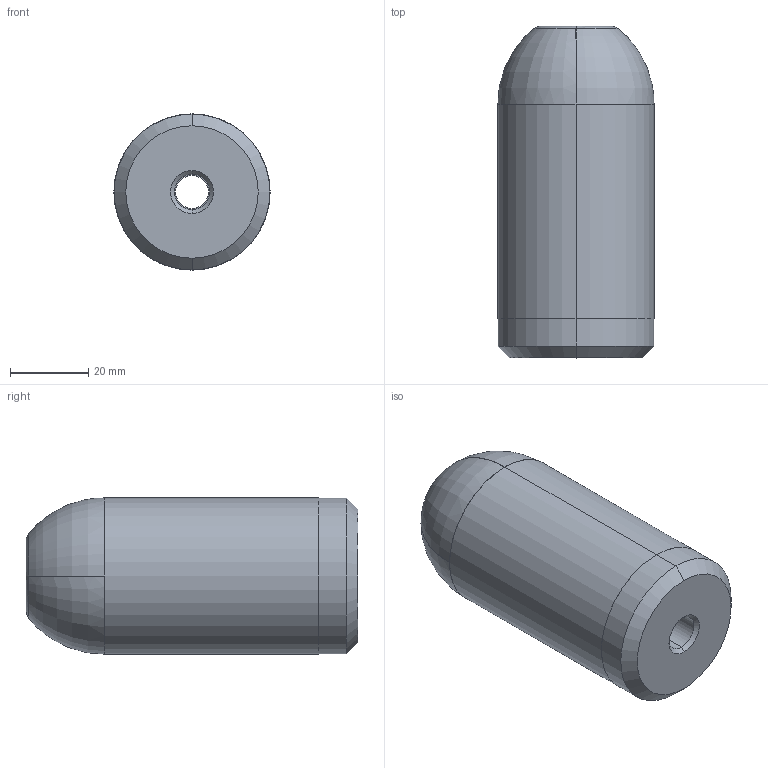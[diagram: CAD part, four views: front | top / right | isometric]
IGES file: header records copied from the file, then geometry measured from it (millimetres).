
Start section: START RECORD GO HERE.
Global section: file name: 700-40-85.igs; native system: DASSAULT SYSTEMES CATIA V5 R20 - www.3ds.com; preprocessor: CATIA Version 5 Release 20 ; author: Utente; organization: NB04-ASUS; date: 20201129.131550; units: millimetre
Bounding box: 40 x 85 x 40 mm (x, y, z)
Surface area: 14142.1 mm2 (no closed solid volume)
Topology: 0 solids, 0 shells, 24 faces, 100 edges, 100 vertices
Faces by surface type: revolution 20, plane 4
